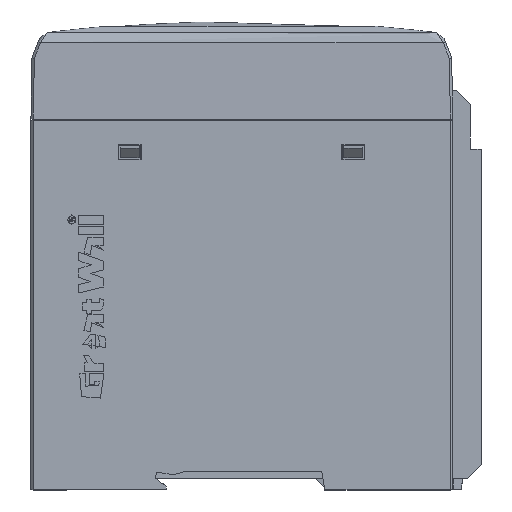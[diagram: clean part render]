
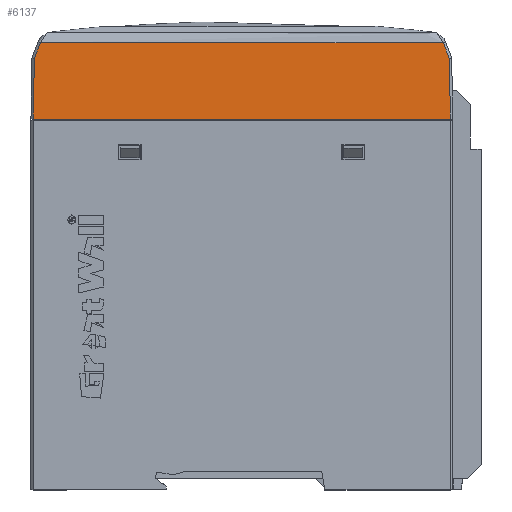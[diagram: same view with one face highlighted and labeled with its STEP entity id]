
A CAD part, top view. The second image highlights one B-rep face of the part: STEP entity #6137.
In plain terms, the highlighted planar face has unit normal (0, 0.018, 1).
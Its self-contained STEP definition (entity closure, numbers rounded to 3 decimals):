
#6137=ADVANCED_FACE('',(#10116),#63994,.T.);
#10116=FACE_OUTER_BOUND('',#14052,.T.);
#14052=EDGE_LOOP('',(#33005,#33006,#33007,#33008,#33009,#33010));
#33005=ORIENTED_EDGE('',*,*,#44109,.T.);
#33006=ORIENTED_EDGE('',*,*,#44110,.T.);
#33007=ORIENTED_EDGE('',*,*,#44036,.T.);
#33008=ORIENTED_EDGE('',*,*,#44113,.T.);
#33009=ORIENTED_EDGE('',*,*,#44114,.T.);
#33010=ORIENTED_EDGE('',*,*,#44037,.T.);
#44036=EDGE_CURVE('',#61892,#61893,#54608,.T.);
#44037=EDGE_CURVE('',#61895,#61890,#54609,.T.);
#44109=EDGE_CURVE('',#61890,#61891,#54681,.T.);
#44110=EDGE_CURVE('',#61891,#61892,#54682,.T.);
#44113=EDGE_CURVE('',#61893,#61894,#54685,.T.);
#44114=EDGE_CURVE('',#61894,#61895,#54686,.T.);
#54608=B_SPLINE_CURVE_WITH_KNOTS('',1,(#148760,#148761),.UNSPECIFIED.,.F.,
 .F.,(2,2),(0.,88.913),.UNSPECIFIED.);
#54609=B_SPLINE_CURVE_WITH_KNOTS('',2,(#148762,#148763,#148764,#148765,
#148766,#148767,#148768,#148769,#148770,#148771,#148772,#148773,#148774,
#148775,#148776,#148777,#148778,#148779,#148780,#148781,#148782,#148783,
#148784,#148785,#148786,#148787,#148788,#148789,#148790,#148791),
 .UNSPECIFIED.,.F.,.F.,(3,1,1,1,1,1,1,1,1,1,1,1,1,1,1,1,1,1,1,1,1,1,1,1,
1,1,1,1,3),(0.,1.991,5.211,8.453,11.696,
14.938,18.18,21.423,24.665,27.908,
31.15,34.393,37.635,40.878,43.472,
46.714,49.956,53.199,56.441,59.684,
62.926,66.169,69.411,72.653,75.896,
79.138,82.381,84.65,86.07),
 .UNSPECIFIED.);
#54681=B_SPLINE_CURVE_WITH_KNOTS('',1,(#148938,#148939),.UNSPECIFIED.,.F.,
 .F.,(2,2),(-3.583,0.),.UNSPECIFIED.);
#54682=B_SPLINE_CURVE_WITH_KNOTS('',1,(#148940,#148941),.UNSPECIFIED.,.F.,
 .F.,(2,2),(-12.958,0.),.UNSPECIFIED.);
#54685=B_SPLINE_CURVE_WITH_KNOTS('',1,(#148950,#148951),.UNSPECIFIED.,.F.,
 .F.,(2,2),(-12.958,0.),.UNSPECIFIED.);
#54686=B_SPLINE_CURVE_WITH_KNOTS('',1,(#148952,#148953),.UNSPECIFIED.,.F.,
 .F.,(2,2),(0.,3.583),.UNSPECIFIED.);
#61890=VERTEX_POINT('',#148323);
#61891=VERTEX_POINT('',#148324);
#61892=VERTEX_POINT('',#148325);
#61893=VERTEX_POINT('',#148326);
#61894=VERTEX_POINT('',#148327);
#61895=VERTEX_POINT('',#148328);
#63994=PLANE('',#66039);
#66039=AXIS2_PLACEMENT_3D('',#144469,#68051,$);
#68051=DIRECTION('',(0.,0.017,1.));
#144469=CARTESIAN_POINT('',(-8.468,76.974,39.992));
#148323=CARTESIAN_POINT('',(2.082,95.287,39.672));
#148324=CARTESIAN_POINT('',(0.77,91.954,39.73));
#148325=CARTESIAN_POINT('',(0.544,79.,39.956));
#148326=CARTESIAN_POINT('',(89.456,79.,39.956));
#148327=CARTESIAN_POINT('',(89.23,91.954,39.73));
#148328=CARTESIAN_POINT('',(87.918,95.287,39.672));
#148760=CARTESIAN_POINT('',(0.544,79.,39.956));
#148761=CARTESIAN_POINT('',(89.456,79.,39.956));
#148762=CARTESIAN_POINT('',(87.918,95.287,39.672));
#148763=CARTESIAN_POINT('',(86.93,95.414,39.67));
#148764=CARTESIAN_POINT('',(84.344,95.731,39.664));
#148765=CARTESIAN_POINT('',(81.134,96.093,39.658));
#148766=CARTESIAN_POINT('',(77.908,96.426,39.652));
#148767=CARTESIAN_POINT('',(74.68,96.727,39.647));
#148768=CARTESIAN_POINT('',(71.449,96.998,39.642));
#148769=CARTESIAN_POINT('',(68.215,97.237,39.638));
#148770=CARTESIAN_POINT('',(64.979,97.445,39.634));
#148771=CARTESIAN_POINT('',(61.742,97.622,39.631));
#148772=CARTESIAN_POINT('',(58.503,97.768,39.629));
#148773=CARTESIAN_POINT('',(55.262,97.882,39.627));
#148774=CARTESIAN_POINT('',(52.021,97.966,39.625));
#148775=CARTESIAN_POINT('',(48.779,98.018,39.624));
#148776=CARTESIAN_POINT('',(45.861,98.036,39.624));
#148777=CARTESIAN_POINT('',(42.942,98.033,39.624));
#148778=CARTESIAN_POINT('',(39.7,97.997,39.625));
#148779=CARTESIAN_POINT('',(36.458,97.93,39.626));
#148780=CARTESIAN_POINT('',(33.217,97.832,39.628));
#148781=CARTESIAN_POINT('',(29.978,97.703,39.63));
#148782=CARTESIAN_POINT('',(26.739,97.543,39.633));
#148783=CARTESIAN_POINT('',(23.502,97.351,39.636));
#148784=CARTESIAN_POINT('',(20.268,97.129,39.64));
#148785=CARTESIAN_POINT('',(17.035,96.875,39.644));
#148786=CARTESIAN_POINT('',(13.805,96.59,39.649));
#148787=CARTESIAN_POINT('',(10.578,96.274,39.655));
#148788=CARTESIAN_POINT('',(7.354,95.926,39.661));
#148789=CARTESIAN_POINT('',(4.617,95.605,39.667));
#148790=CARTESIAN_POINT('',(2.787,95.377,39.67));
#148791=CARTESIAN_POINT('',(2.082,95.287,39.672));
#148938=CARTESIAN_POINT('',(2.082,95.287,39.672));
#148939=CARTESIAN_POINT('',(0.77,91.954,39.73));
#148940=CARTESIAN_POINT('',(0.77,91.954,39.73));
#148941=CARTESIAN_POINT('',(0.544,79.,39.956));
#148950=CARTESIAN_POINT('',(89.456,79.,39.956));
#148951=CARTESIAN_POINT('',(89.23,91.954,39.73));
#148952=CARTESIAN_POINT('',(89.23,91.954,39.73));
#148953=CARTESIAN_POINT('',(87.918,95.287,39.672));
